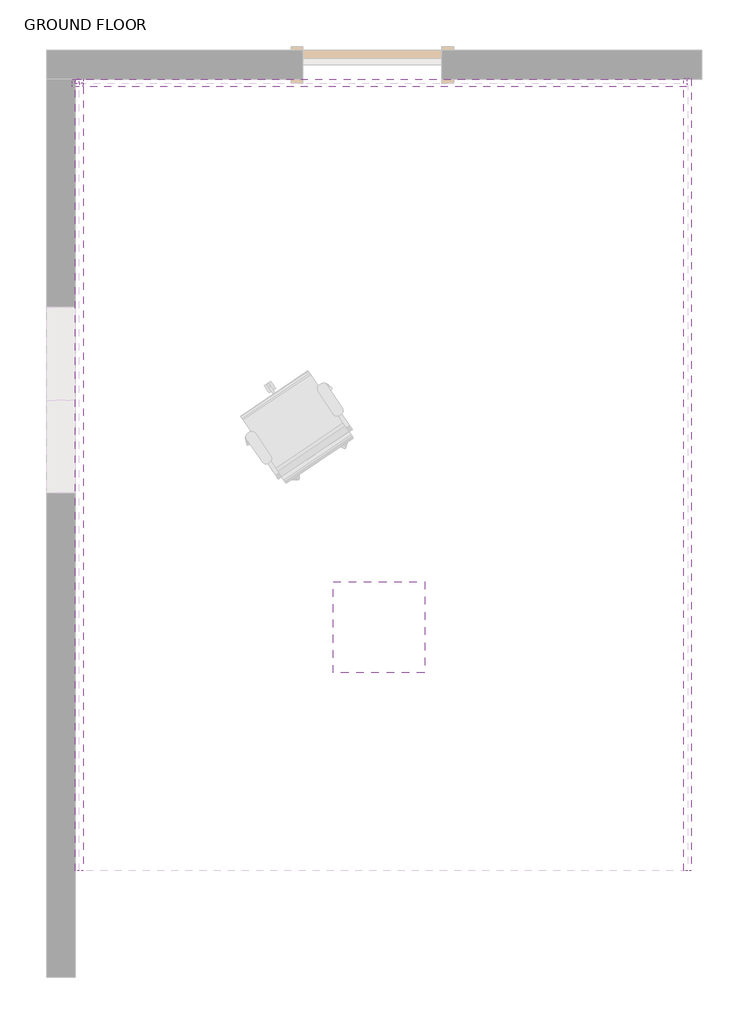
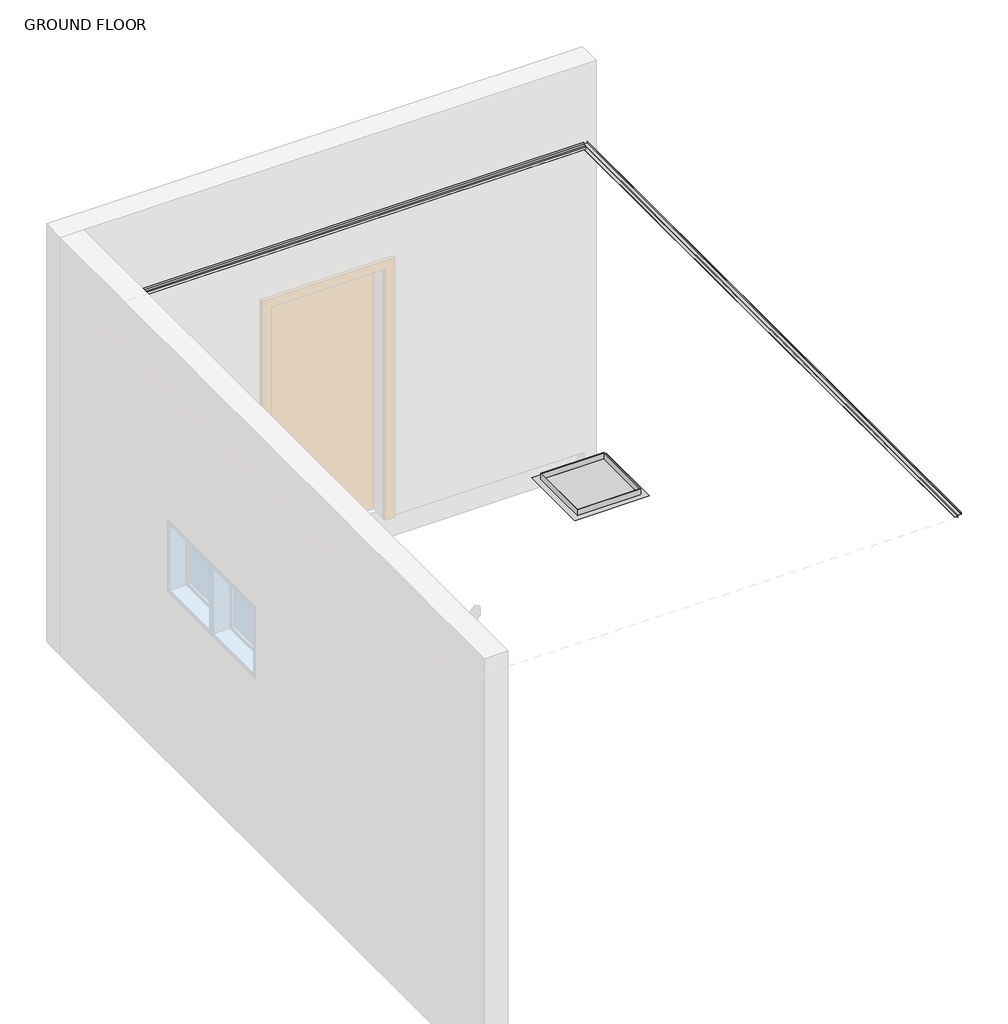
# One storey, part 2 of 2: 4 proxies.
"""IFC4 building model written with IfcOpenShell, lengths in millimetres."""

from ifc_helpers import new_model, si_unit, frame, origin, place, context, project, spatial, polyline, outline, extrude, faceted_brep, element, save

model = new_model("IFC4")

# Units and contexts
model_context = context("Model", 3, world=origin())
ifc_project = project(units=[si_unit("LENGTHUNIT", "METRE", prefix="MILLI")], contexts=[model_context])

# Site, building, storey
site = spatial("IfcSite", under=ifc_project)
building = spatial("IfcBuilding", under=site)
storey = spatial("IfcBuildingStorey", under=building, Name="GROUND FLOOR", Elevation=0.0)

# Proxies
placement = place(None, origin())
element("IfcBuildingElementProxy", 1, Name="Ceiling_Access_HatchPanel_Parametric : In Lay", ObjectType="Ceiling_Access_HatchPanel_Parametric : In Lay", at=placement, inside=storey, context=model_context, shape_type="SolidModel", body=[
    faceted_brep([(114682.6212716, 38869.9489557, 2650.0), (114682.6212716, 38359.2489557, 2650.0), (115193.3212716, 38359.2489557, 2650.0), (115193.3212716, 38869.9489557, 2650.0), (114688.9712716, 38863.5989557, 2650.0), (115186.9712716, 38863.5989557, 2650.0), (115186.9712716, 38365.5989557, 2650.0), (114688.9712716, 38365.5989557, 2650.0), (114682.6212716, 38869.9489557, 2600.0), (115193.3212716, 38869.9489557, 2600.0), (115193.3212716, 38359.2489557, 2600.0), (114682.6212716, 38359.2489557, 2600.0), (114688.9712716, 38863.5989557, 2600.0), (114688.9712716, 38365.5989557, 2600.0), (115186.9712716, 38365.5989557, 2600.0), (115186.9712716, 38863.5989557, 2600.0), (114682.6212716, 38869.9489557, 2611.0), (114682.6212716, 38359.2489557, 2611.0), (115193.3212716, 38359.2489557, 2611.0), (115193.3212716, 38869.9489557, 2611.0)], [[[0, 1, 2, 3], [4, 5, 6, 7]], [[8, 9, 10, 11], [12, 13, 14, 15]], [[5, 4, 12, 15]], [[6, 5, 15, 14]], [[7, 6, 14, 13]], [[4, 7, 13, 12]], [[1, 0, 16, 8, 11, 17]], [[2, 1, 17, 11, 10, 18]], [[3, 2, 18, 10, 9, 19]], [[0, 3, 19, 9, 8, 16]]]),
    extrude(outline(polyline([(114688.9712716, 38863.5989557), (115186.9712716, 38863.5989557), (115186.9712716, 38365.5989557), (114688.9712716, 38365.5989557), (114688.9712716, 38863.5989557)])), frame((0.0, 0.0, 2593.65), z_axis=(0.0, 0.0, 1.0), x_axis=(1.0, 0.0, 0.0)), (0.0, 0.0, 1.0), 6.35),
    faceted_brep([(114688.9712716, 38863.5989557, 2600.0), (114688.9712716, 38863.5989557, 2590.475), (115186.9712716, 38863.5989557, 2590.475), (115186.9712716, 38863.5989557, 2600.0), (115186.9712716, 38365.5989557, 2590.475), (115186.9712716, 38365.5989557, 2600.0), (114688.9712716, 38365.5989557, 2590.475), (114688.9712716, 38365.5989557, 2600.0), (115225.0712716, 38901.6989557, 2590.475), (115225.0712716, 38327.4989557, 2590.475), (114650.8712716, 38327.4989557, 2590.475), (114650.8712716, 38901.6989557, 2590.475), (114638.1712716, 38914.3989557, 2600.0), (114638.1712716, 38314.7989557, 2600.0), (115237.7712716, 38314.7989557, 2600.0), (115237.7712716, 38914.3989557, 2600.0)], [[[0, 1, 2, 3]], [[3, 2, 4, 5]], [[5, 4, 6, 7]], [[8, 9, 10, 11], [1, 6, 4, 2]], [[12, 13, 14, 15], [3, 5, 7, 0]], [[7, 6, 1, 0]], [[11, 12, 15, 8]], [[8, 15, 14, 9]], [[9, 14, 13, 10]], [[10, 13, 12, 11]]]),
])
element("IfcBuildingElementProxy", 2, Name="TR02 : Pelican Systems Plaster Trim 25 x 20", ObjectType="TR02 : Pelican Systems Plaster Trim 25 x 20", at=placement, inside=storey, context=model_context, shape_type="Brep", body=[
    faceted_brep([(116960.7345529, 42191.9193804, 2600.0), (116960.7345529, 42192.9193804, 2600.0), (116960.7345529, 42192.9193804, 2610.0), (116960.7345529, 42191.9193804, 2610.0), (112920.7345529, 42217.9193804, 2636.0), (112920.7345529, 42217.9193804, 2620.0), (112920.7345529, 42192.9193804, 2620.0), (112920.7345529, 42192.9193804, 2600.0), (112920.7345529, 42191.9193804, 2600.0), (112920.7345529, 42191.9193804, 2611.0), (112920.7345529, 42167.9193804, 2611.0), (112920.7345529, 42167.9193804, 2612.0), (112920.7345529, 42191.9193804, 2612.0), (112920.7345529, 42191.9193804, 2621.0), (112920.7345529, 42216.9193804, 2621.0), (112920.7345529, 42216.9193804, 2636.0), (116960.7345529, 42217.9193804, 2636.0), (116960.7345529, 42217.9193804, 2620.0), (116960.7345529, 42192.9193804, 2620.0), (112968.7345529, 42192.9193804, 2620.0), (112968.7345529, 42216.9193804, 2620.0), (112967.7345529, 42216.9193804, 2620.0), (112942.7345529, 42216.9193804, 2620.0), (112942.7345529, 42192.9193804, 2620.0), (112967.7345529, 42192.9193804, 2620.0), (112967.7345529, 42192.9193804, 2600.0), (112967.7345529, 42191.9193804, 2600.0), (112967.7345529, 42191.9193804, 2612.0), (112967.7345529, 42191.9193804, 2620.0), (112942.7345529, 42191.9193804, 2620.0), (112942.7345529, 42191.9193804, 2621.0), (112942.7345529, 42216.9193804, 2621.0), (116960.7345529, 42216.9193804, 2621.0), (116960.7345529, 42216.9193804, 2636.0), (112943.7345529, 42216.9193804, 2636.0), (112942.7345529, 42216.9193804, 2636.0), (112968.7345529, 42216.9193804, 2621.0), (112967.7345529, 42191.9193804, 2611.0), (112967.7345529, 42167.9193804, 2611.0), (112967.7345529, 42167.9193804, 2612.0), (116941.7345529, 42192.9193804, 2610.0), (116941.7345529, 42191.9193804, 2610.0), (116941.7345529, 42192.9193804, 2611.0), (116941.7345529, 42191.9193804, 2611.0), (116960.7345529, 42191.9193804, 2621.0), (116960.7345529, 42191.9193804, 2612.0), (116960.7345529, 42167.9193804, 2612.0), (116960.7345529, 42167.9193804, 2611.0), (116960.7345529, 42192.9193804, 2611.0), (112992.7345529, 42192.9193804, 2611.0), (112968.7345529, 42192.9193804, 2611.0), (112968.7345529, 42191.9193804, 2611.0), (112992.7345529, 42191.9193804, 2611.0), (112992.7345529, 42167.9193804, 2611.0), (112992.7345529, 42167.9193804, 2612.0), (112992.7345529, 42191.9193804, 2612.0), (112992.7345529, 42192.9193804, 2612.0), (112968.7345529, 42191.9193804, 2612.0), (112968.7345529, 42192.9193804, 2612.0), (112968.7345529, 42191.9193804, 2621.0), (112968.7345529, 42192.9193804, 2600.0), (112968.7345529, 42191.9193804, 2600.0)], [[[0, 1, 2, 3]], [[4, 5, 6, 7, 8, 9, 10, 11, 12, 13, 14, 15]], [[16, 17, 5, 4]], [[17, 18, 19, 20, 21, 22, 23, 6, 5]], [[7, 6, 23, 24, 25]], [[8, 7, 25, 26]], [[13, 12, 27, 28, 29, 30]], [[14, 13, 30, 31]], [[32, 33, 34, 35, 15, 14, 31, 22, 21, 20, 36]], [[33, 16, 4, 15, 35, 34]], [[9, 8, 26, 37]], [[10, 9, 37, 38]], [[11, 10, 38, 39]], [[12, 11, 39, 27]], [[40, 41, 3, 2]], [[41, 40, 42, 43]], [[16, 33, 32, 44, 45, 46, 47, 48, 18, 17]], [[49, 50, 51, 52]], [[52, 53, 54, 55, 56, 49]], [[56, 55, 57, 58]], [[22, 31, 30, 29, 23]], [[23, 29, 28, 24]], [[38, 37, 26, 25, 24, 28, 27, 39]], [[58, 57, 59, 36, 20, 19]], [[50, 60, 61, 51]], [[53, 47, 46, 54]], [[1, 60, 50, 49, 56, 58, 19, 18, 48, 42, 40, 2]], [[1, 0, 61, 60]], [[45, 44, 59, 57, 55]], [[44, 32, 36, 59]], [[61, 0, 3, 41, 43, 52, 51]], [[53, 52, 43, 42, 48, 47]], [[46, 45, 55, 54]]]),
])
element("IfcBuildingElementProxy", 3, Name="TR02 : Pelican Systems Plaster Trim 25 x 20", ObjectType="TR02 : Pelican Systems Plaster Trim 25 x 20", at=placement, inside=storey, context=model_context, shape_type="Brep", body=[
    faceted_brep([(116991.7345529, 37012.9193804, 2635.0), (116990.7345529, 37012.9193804, 2635.0), (116990.7345529, 37012.9193804, 2620.0), (116965.7345529, 37012.9193804, 2620.0), (116965.7345529, 37012.9193804, 2611.0), (116941.7345529, 37012.9193804, 2611.0), (116941.7345529, 37012.9193804, 2610.0), (116965.7345529, 37012.9193804, 2610.0), (116965.7345529, 37012.9193804, 2599.0), (116966.7345529, 37012.9193804, 2599.0), (116966.7345529, 37012.9193804, 2619.0), (116991.7345529, 37012.9193804, 2619.0), (116991.7345529, 42222.9193804, 2635.0), (116991.7345529, 42222.9193804, 2619.0), (116966.7345529, 42222.9193804, 2619.0), (116966.7345529, 42222.9193804, 2599.0), (116965.7345529, 42222.9193804, 2599.0), (116965.7345529, 42222.9193804, 2610.0), (116941.7345529, 42222.9193804, 2610.0), (116941.7345529, 42222.9193804, 2611.0), (116965.7345529, 42222.9193804, 2611.0), (116965.7345529, 42222.9193804, 2620.0), (116990.7345529, 42222.9193804, 2620.0), (116990.7345529, 42222.9193804, 2635.0), (116941.7345529, 42191.9193804, 2610.0), (116941.7345529, 42192.9193804, 2610.0), (116941.7345529, 42191.9193804, 2611.0), (116941.7345529, 42192.9193804, 2611.0)], [[[0, 1, 2, 3, 4, 5, 6, 7, 8, 9, 10, 11]], [[12, 13, 14, 15, 16, 17, 18, 19, 20, 21, 22, 23]], [[11, 13, 12, 0]], [[10, 14, 13, 11]], [[9, 15, 14, 10]], [[8, 16, 15, 9]], [[3, 21, 20, 4]], [[2, 22, 21, 3]], [[1, 23, 22, 2]], [[0, 12, 23, 1]], [[7, 17, 16, 8]], [[6, 24, 25, 18, 17, 7]], [[5, 26, 27, 19, 18, 25, 24, 6]], [[4, 20, 19, 27, 26, 5]]]),
])
element("IfcBuildingElementProxy", 4, Name="TR02 : Pelican Systems Plaster Trim 25 x 20", ObjectType="TR02 : Pelican Systems Plaster Trim 25 x 20", at=placement, inside=storey, context=model_context, shape_type="Brep", body=[
    faceted_brep([(112942.7345529, 42216.9193804, 2636.0), (112943.7345529, 42216.9193804, 2636.0), (112943.7345529, 42216.9193804, 2621.0), (112968.7345529, 42216.9193804, 2621.0), (112968.7345529, 42216.9193804, 2620.0), (112968.7345529, 42216.9193804, 2612.0), (112992.7345529, 42216.9193804, 2612.0), (112992.7345529, 42216.9193804, 2611.0), (112968.7345529, 42216.9193804, 2611.0), (112968.7345529, 42216.9193804, 2600.0), (112967.7345529, 42216.9193804, 2600.0), (112967.7345529, 42216.9193804, 2620.0), (112942.7345529, 42216.9193804, 2620.0), (112942.7345529, 42216.9193804, 2621.0), (112942.7345529, 37012.9193804, 2636.0), (112942.7345529, 37012.9193804, 2620.0), (112967.7345529, 37012.9193804, 2620.0), (112967.7345529, 37012.9193804, 2600.0), (112968.7345529, 37012.9193804, 2600.0), (112968.7345529, 37012.9193804, 2611.0), (112992.7345529, 37012.9193804, 2611.0), (112992.7345529, 37012.9193804, 2612.0), (112968.7345529, 37012.9193804, 2612.0), (112968.7345529, 37012.9193804, 2621.0), (112943.7345529, 37012.9193804, 2621.0), (112943.7345529, 37012.9193804, 2636.0), (112942.7345529, 42192.9193804, 2620.0), (112942.7345529, 42191.9193804, 2620.0), (112967.7345529, 42192.9193804, 2620.0), (112967.7345529, 42191.9193804, 2620.0), (112967.7345529, 42192.9193804, 2600.0), (112967.7345529, 42191.9193804, 2600.0), (112968.7345529, 42192.9193804, 2600.0), (112968.7345529, 42191.9193804, 2600.0), (112968.7345529, 42191.9193804, 2621.0), (112968.7345529, 42191.9193804, 2612.0), (112968.7345529, 42192.9193804, 2612.0), (112968.7345529, 42192.9193804, 2611.0), (112968.7345529, 42191.9193804, 2611.0), (112992.7345529, 42192.9193804, 2611.0), (112992.7345529, 42191.9193804, 2611.0), (112992.7345529, 42167.9193804, 2611.0), (112992.7345529, 42192.9193804, 2612.0), (112992.7345529, 42191.9193804, 2612.0), (112992.7345529, 42167.9193804, 2612.0)], [[[0, 1, 2, 3, 4, 5, 6, 7, 8, 9, 10, 11, 12, 13]], [[14, 15, 16, 17, 18, 19, 20, 21, 22, 23, 24, 25]], [[12, 26, 27, 15, 14, 0, 13]], [[11, 28, 29, 16, 15, 27, 26, 12]], [[10, 30, 31, 17, 16, 29, 28, 11]], [[9, 32, 33, 18, 17, 31, 30, 10]], [[3, 34, 23, 22, 35, 36, 5, 4]], [[2, 24, 23, 34, 3]], [[1, 25, 24, 2]], [[0, 14, 25, 1]], [[8, 37, 38, 19, 18, 33, 32, 9]], [[7, 39, 40, 41, 20, 19, 38, 37, 8]], [[6, 42, 43, 44, 21, 20, 41, 40, 39, 7]], [[5, 36, 35, 22, 21, 44, 43, 42, 6]]]),
])

save(model, "model.ifc")
